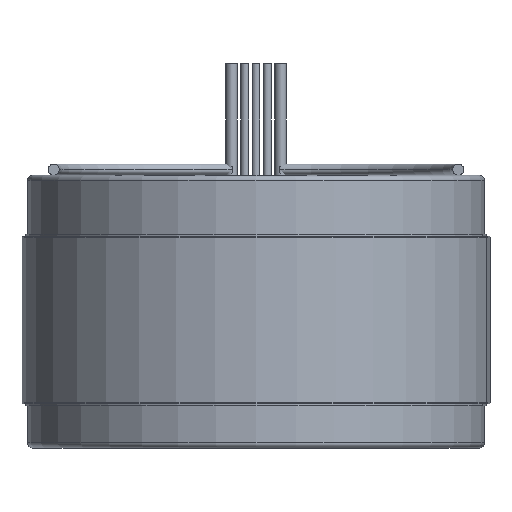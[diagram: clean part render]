
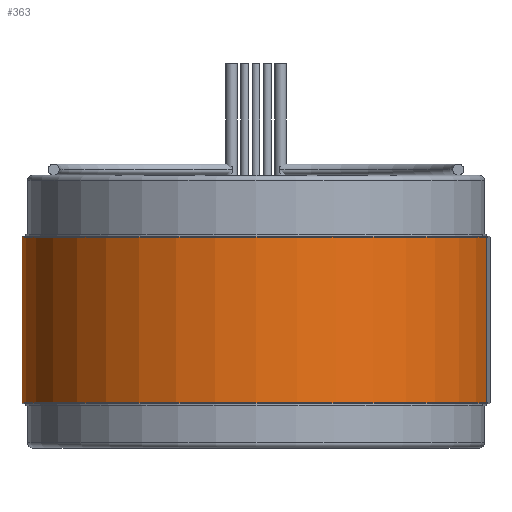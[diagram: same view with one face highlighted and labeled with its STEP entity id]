
A CAD part, front view. The second image highlights one B-rep face of the part: STEP entity #363.
In plain terms, the highlighted cylindrical face has radius 53.34 mm (diameter 106.68 mm), a partial arc.
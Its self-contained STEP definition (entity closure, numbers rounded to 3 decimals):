
#21 = CARTESIAN_POINT ( 'NONE',  ( -53.34, 0., -18.847 ) ) ;
#221 = ORIENTED_EDGE ( 'NONE', *, *, #1412, .T. ) ;
#233 = DIRECTION ( 'NONE',  ( 0., 0., 1. ) ) ;
#278 = EDGE_CURVE ( 'NONE', #619, #2528, #539, .T. ) ;
#363 = ADVANCED_FACE ( 'NONE', ( #512 ), #598, .T. ) ;
#454 = DIRECTION ( 'NONE',  ( 0., 0., 1. ) ) ;
#512 = FACE_OUTER_BOUND ( 'NONE', #2180, .T. ) ;
#539 = LINE ( 'NONE', #1519, #1339 ) ;
#598 = CYLINDRICAL_SURFACE ( 'NONE', #2821, 53.34 ) ;
#619 = VERTEX_POINT ( 'NONE', #21 ) ;
#685 = CARTESIAN_POINT ( 'NONE',  ( 0., 0., 18.847 ) ) ;
#696 = AXIS2_PLACEMENT_3D ( 'NONE', #685, #233, #2201 ) ;
#801 = CARTESIAN_POINT ( 'NONE',  ( 53.34, 0., -19.558 ) ) ;
#1103 = CARTESIAN_POINT ( 'NONE',  ( 0., 0., -19.558 ) ) ;
#1173 = CARTESIAN_POINT ( 'NONE',  ( 0., 0., -18.847 ) ) ;
#1220 = CIRCLE ( 'NONE', #696, 53.34 ) ;
#1315 = VERTEX_POINT ( 'NONE', #1807 ) ;
#1339 = VECTOR ( 'NONE', #454, 1000. ) ;
#1412 = EDGE_CURVE ( 'NONE', #1678, #1315, #2639, .T. ) ;
#1495 = EDGE_CURVE ( 'NONE', #619, #1678, #2018, .T. ) ;
#1519 = CARTESIAN_POINT ( 'NONE',  ( -53.34, 0., -19.558 ) ) ;
#1552 = DIRECTION ( 'NONE',  ( 1., 0., 0. ) ) ;
#1642 = CARTESIAN_POINT ( 'NONE',  ( 53.34, 0., -18.847 ) ) ;
#1678 = VERTEX_POINT ( 'NONE', #1642 ) ;
#1768 = DIRECTION ( 'NONE',  ( 0., 0., 1. ) ) ;
#1807 = CARTESIAN_POINT ( 'NONE',  ( 53.34, 0., 18.847 ) ) ;
#1817 = CARTESIAN_POINT ( 'NONE',  ( -53.34, 0., 18.847 ) ) ;
#1883 = EDGE_CURVE ( 'NONE', #2528, #1315, #1220, .T. ) ;
#1933 = ORIENTED_EDGE ( 'NONE', *, *, #1883, .F. ) ;
#2012 = ORIENTED_EDGE ( 'NONE', *, *, #278, .F. ) ;
#2018 = CIRCLE ( 'NONE', #2161, 53.34 ) ;
#2103 = DIRECTION ( 'NONE',  ( 0., 0., 1. ) ) ;
#2161 = AXIS2_PLACEMENT_3D ( 'NONE', #1173, #2103, #2342 ) ;
#2180 = EDGE_LOOP ( 'NONE', ( #2012, #2699, #221, #1933 ) ) ;
#2201 = DIRECTION ( 'NONE',  ( 1., 0., 0. ) ) ;
#2342 = DIRECTION ( 'NONE',  ( 1., 0., 0. ) ) ;
#2422 = DIRECTION ( 'NONE',  ( 0., 0., 1. ) ) ;
#2439 = VECTOR ( 'NONE', #2422, 1000. ) ;
#2528 = VERTEX_POINT ( 'NONE', #1817 ) ;
#2639 = LINE ( 'NONE', #801, #2439 ) ;
#2699 = ORIENTED_EDGE ( 'NONE', *, *, #1495, .T. ) ;
#2821 = AXIS2_PLACEMENT_3D ( 'NONE', #1103, #1768, #1552 ) ;
